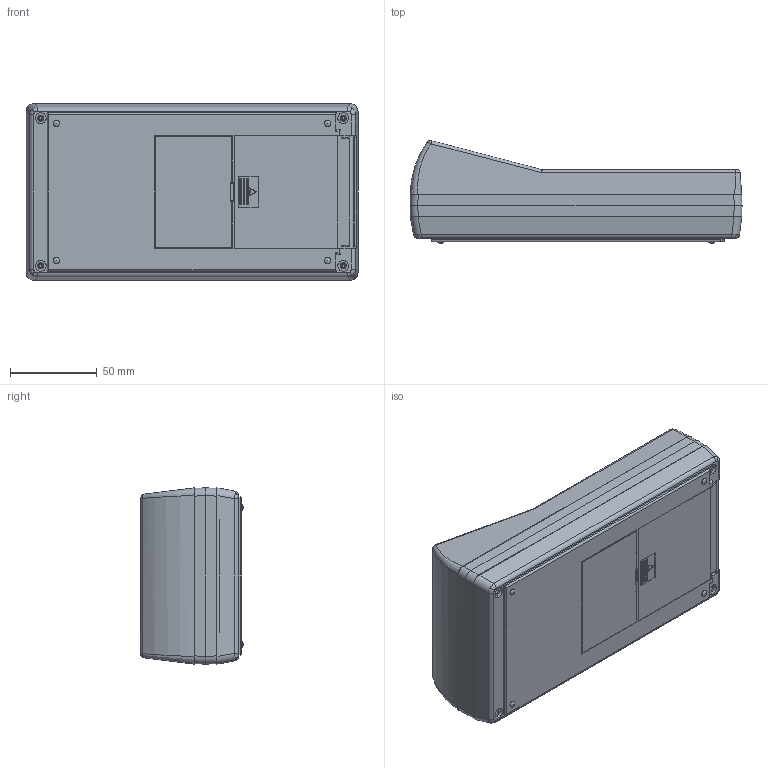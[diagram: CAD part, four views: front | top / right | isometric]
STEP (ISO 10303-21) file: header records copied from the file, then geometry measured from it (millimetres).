
FILE_DESCRIPTION (( 'STEP AP214' ), '1' );
FILE_NAME ('90-51-29V-E-R.STEP', '2019-12-01T17:24:19', ( 'Rudy' ), ( '' ), 'SwSTEP 2.0', 'SolidWorks 2014', '' );
FILE_SCHEMA (( 'AUTOMOTIVE_DESIGN' ));
Length unit declared in the file: millimetre
Products named in the file (6): 29V door; 100-06 EXPANDER; 100 bessel; 100 Top Angled LCD; 100-01 BOT-29V; 90-51-29V-E-R
Assembly tree (5 placements, depth 2):
  90-51-29V-E-R
    100-01 BOT-29V
    100 Top Angled LCD
    100 bessel
    100-06 EXPANDER
    29V door
Bounding box: 191 x 59.13 x 101.4 mm (x, y, z)
Volume: 153734 mm3; surface area: 153101.8 mm2
Topology: 5 solids, 5 shells, 718 faces, 1927 edges, 1233 vertices
Faces by surface type: plane 445, cylinder 195, cone 40, bspline 22, torus 12, sphere 4
Entity records: 23601 total; most frequent: CARTESIAN_POINT 5783, ORIENTED_EDGE 3822, DIRECTION 3440, EDGE_CURVE 1911, VECTOR 1358, LINE 1358, VERTEX_POINT 1225, AXIS2_PLACEMENT_3D 1041
